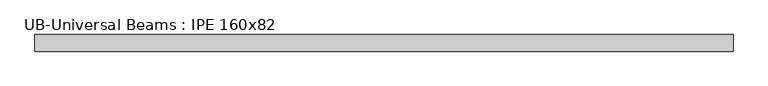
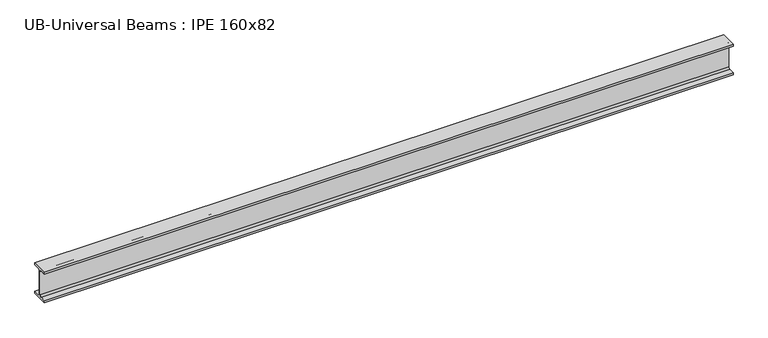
"""IFC4 building model written with IfcOpenShell, lengths in millimetres: beam geometry, UB-Universal Beams : IPE 160x82."""

from ifc_helpers import new_model, si_unit, point, frame, frame_2d, origin, place, context, project, spatial, polyline, circle_curve, trimmed, segment, composite_curve, outline, extrude, source, transform, mapped, element, save


def ub_universal_beams_ipe_160x82_3ea767f5(model_context):
    return source(origin(), model_context, "Body", "SweptSolid", [
        extrude(outline(composite_curve([segment(polyline([(41.0, -69.8), (41.0, -80.0), (-41.0, -80.0), (-41.0, -69.8), (-11.9, -69.8)]), True, "CONTINUOUS"), segment(trimmed(circle_curve(frame_2d((-11.9, -60.9)), 8.9), [point((-11.9, -69.8))], [point((-3.0, -60.9))], True, "CARTESIAN"), True, "CONTINUOUS"), segment(polyline([(-3.0, -60.9), (-3.0, 60.9)]), True, "CONTINUOUS"), segment(trimmed(circle_curve(frame_2d((-11.9, 60.9)), 8.9), [point((-3.0, 60.9))], [point((-11.9, 69.8))], True, "CARTESIAN"), True, "CONTINUOUS"), segment(polyline([(-11.9, 69.8), (-41.0, 69.8), (-41.0, 80.0), (41.0, 80.0), (41.0, 69.8), (11.9, 69.8)]), True, "CONTINUOUS"), segment(trimmed(circle_curve(frame_2d((11.9, 60.9)), 8.9), [point((11.9, 69.8))], [point((3.0, 60.9))], True, "CARTESIAN"), True, "CONTINUOUS"), segment(polyline([(3.0, 60.9), (3.0, -60.9)]), True, "CONTINUOUS"), segment(trimmed(circle_curve(frame_2d((11.9, -60.9)), 8.9), [point((3.0, -60.9))], [point((11.9, -69.8))], True, "CARTESIAN"), True, "CONTINUOUS"), segment(polyline([(11.9, -69.8), (41.0, -69.8)]), True, "CONTINUOUS")], self_intersect=False)), frame((-1354.75, 0.0, 0.0), z_axis=(1.0, 0.0, 0.0), x_axis=(0.0, 1.0, 0.0)), (0.0, 0.0, 1.0), 3448.6),
    ])


if __name__ == "__main__":
    model = new_model("IFC4")
    model_context = context("Model", 3, world=origin())
    ifc_project = project(units=[si_unit("LENGTHUNIT", "METRE", prefix="MILLI")], contexts=[model_context])
    site = spatial("IfcSite", under=ifc_project)
    building = spatial("IfcBuilding", under=site)
    placement = place(None, origin())
    ub_universal_beams_ipe_160x82_shape = ub_universal_beams_ipe_160x82_3ea767f5(model_context)
    element("IfcBeam", 1, ObjectType="UB-Universal Beams : IPE 160x82", at=placement, inside=building, context=model_context, shape_type="MappedRepresentation", body=[
        mapped(ub_universal_beams_ipe_160x82_shape, transform((0.0, 0.0, 0.0), x_axis=(1.0, 0.0, 0.0), y_axis=(0.0, 1.0, 0.0), z_axis=(0.0, 0.0, 1.0))),
    ])
    save(model, "model.ifc")
